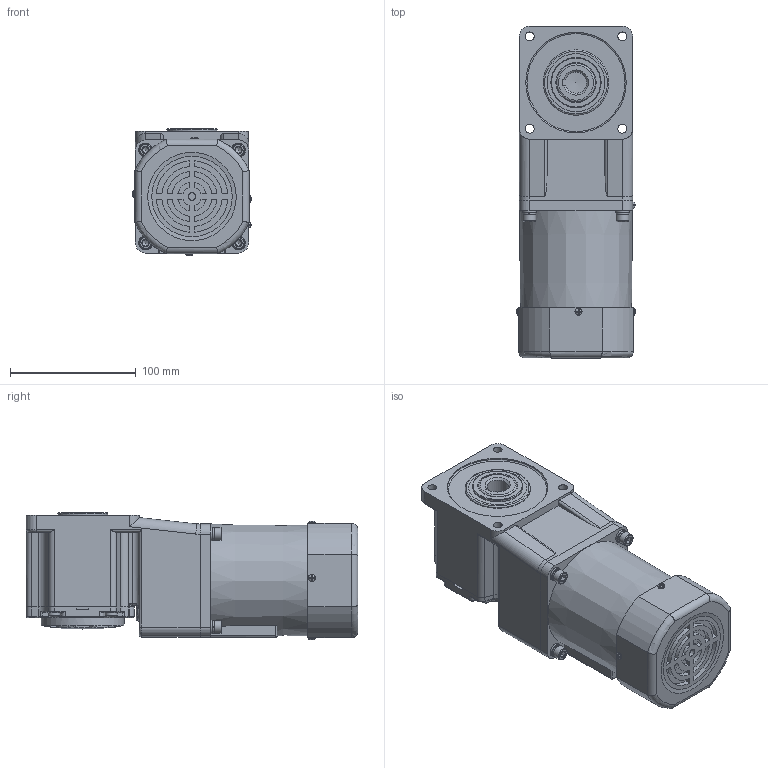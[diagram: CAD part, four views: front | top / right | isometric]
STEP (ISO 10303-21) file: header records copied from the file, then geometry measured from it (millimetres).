
FILE_DESCRIPTION(/* description */ (''),/* implementation_level */ '2;1');
FILE_NAME(/* name */ '90+中空直角-风叶-60W.stp',/* time_stamp */ '2022-09-27T11:11:50+08:00',/* author */ (''),/* organization */ (''),/* preprocessor_version */ 'ST-DEVELOPER v16.7',/* originating_system */ 'SIEMENS PLM Software NX 1899',/* authorisation */ '');
FILE_SCHEMA (('AP203_CONFIGURATION_CONTROLLED_3D_DESIGN_OF_MECHANICAL_PARTS_AND_ASSEMBLIES_MIM_LF { 1 0 10303 403 2 1 2}'));
Length unit declared in the file: millimetre
Products named in the file (1): yf1815905F60ugxa
Bounding box: 94.66 x 264 x 101.83 mm (x, y, z)
Volume: 1815450 mm3; surface area: 160595.7 mm2
Topology: 19 solids, 19 shells, 763 faces, 1799 edges, 1104 vertices
Faces by surface type: plane 391, cylinder 241, torus 63, cone 50, sphere 14, bspline 4
Full cylindrical faces by diameter (mm): 3.3 x2, 4.5 x2, 5 x4, 5.5 x4, 5.6 x4, 5.795 x4, 6 x1, 6.4 x4, 7 x8, 9.5 x4, 10 x4, 11 x4, 30 x2, 40 x1, 47 x1, 47.5 x1, 52 x1, 60 x1, 60.5 x1, 66 x1, 67 x1, 76 x1, 80 x1, 86 x2
Entity records: 22835 total; most frequent: CARTESIAN_POINT 4518, DIRECTION 3689, ORIENTED_EDGE 3244, EDGE_CURVE 1622, AXIS2_PLACEMENT_3D 1453, VERTEX_POINT 1055, EDGE_LOOP 947, LINE 783
